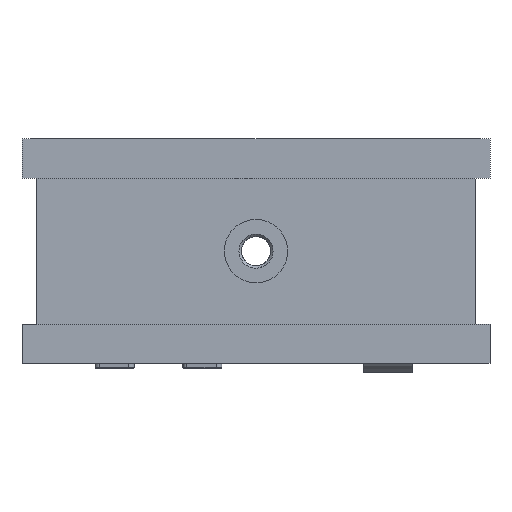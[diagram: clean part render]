
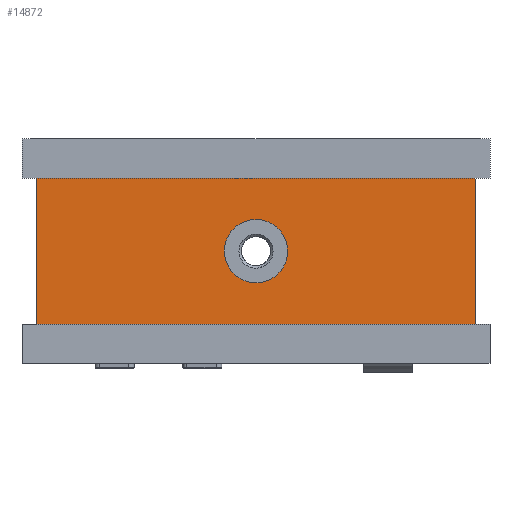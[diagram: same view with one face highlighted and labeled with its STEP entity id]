
A CAD part, front view. The second image highlights one B-rep face of the part: STEP entity #14872.
In plain terms, the highlighted planar face has unit normal (0, -1, 0).
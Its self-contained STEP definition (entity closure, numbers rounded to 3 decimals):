
#132 = VECTOR ( 'NONE', #2671, 1000. ) ;
#703 = VERTEX_POINT ( 'NONE', #1959 ) ;
#953 = ORIENTED_EDGE ( 'NONE', *, *, #23811, .T. ) ;
#1549 = VERTEX_POINT ( 'NONE', #1620 ) ;
#1620 = CARTESIAN_POINT ( 'NONE',  ( 0., 0., 0. ) ) ;
#1786 = DIRECTION ( 'NONE',  ( 0., 0., 1. ) ) ;
#1788 = CIRCLE ( 'NONE', #11142, 4. ) ;
#1959 = CARTESIAN_POINT ( 'NONE',  ( 45., 0., 19. ) ) ;
#2015 = CARTESIAN_POINT ( 'NONE',  ( 0., 0., 30. ) ) ;
#2671 = DIRECTION ( 'NONE',  ( 1., 0., 0. ) ) ;
#2751 = CARTESIAN_POINT ( 'NONE',  ( 0., 0., 30. ) ) ;
#3351 = ORIENTED_EDGE ( 'NONE', *, *, #18366, .T. ) ;
#3609 = LINE ( 'NONE', #2015, #7495 ) ;
#3627 = VERTEX_POINT ( 'NONE', #20342 ) ;
#4148 = PLANE ( 'NONE',  #17031 ) ;
#4448 = FACE_BOUND ( 'NONE', #24209, .T. ) ;
#4524 = VECTOR ( 'NONE', #22756, 1000. ) ;
#6134 = CIRCLE ( 'NONE', #15798, 4. ) ;
#6662 = VECTOR ( 'NONE', #21196, 1000. ) ;
#7123 = DIRECTION ( 'NONE',  ( 0., 0., 1. ) ) ;
#7162 = EDGE_LOOP ( 'NONE', ( #953, #19805, #18014, #17654 ) ) ;
#7495 = VECTOR ( 'NONE', #22981, 1000. ) ;
#7599 = CARTESIAN_POINT ( 'NONE',  ( 90., 0., 30. ) ) ;
#8233 = CARTESIAN_POINT ( 'NONE',  ( 45., 0., 11. ) ) ;
#9153 = CARTESIAN_POINT ( 'NONE',  ( 90., 0., 30. ) ) ;
#9210 = DIRECTION ( 'NONE',  ( 0., 1., 0. ) ) ;
#9561 = FACE_OUTER_BOUND ( 'NONE', #7162, .T. ) ;
#9690 = VERTEX_POINT ( 'NONE', #10727 ) ;
#10255 = LINE ( 'NONE', #21113, #6662 ) ;
#10727 = CARTESIAN_POINT ( 'NONE',  ( 90., 0., 0. ) ) ;
#10824 = LINE ( 'NONE', #9153, #4524 ) ;
#11142 = AXIS2_PLACEMENT_3D ( 'NONE', #24675, #9210, #7123 ) ;
#14111 = EDGE_CURVE ( 'NONE', #3627, #1549, #3609, .T. ) ;
#14872 = ADVANCED_FACE ( 'NONE', ( #4448, #9561 ), #4148, .F. ) ;
#15424 = DIRECTION ( 'NONE',  ( 0., 0., 1. ) ) ;
#15798 = AXIS2_PLACEMENT_3D ( 'NONE', #16724, #20739, #1786 ) ;
#16724 = CARTESIAN_POINT ( 'NONE',  ( 45., 0., 15. ) ) ;
#17031 = AXIS2_PLACEMENT_3D ( 'NONE', #17520, #19441, #15424 ) ;
#17210 = ORIENTED_EDGE ( 'NONE', *, *, #21961, .T. ) ;
#17520 = CARTESIAN_POINT ( 'NONE',  ( 0., 0., 30. ) ) ;
#17654 = ORIENTED_EDGE ( 'NONE', *, *, #14111, .T. ) ;
#18014 = ORIENTED_EDGE ( 'NONE', *, *, #22334, .F. ) ;
#18366 = EDGE_CURVE ( 'NONE', #703, #21557, #1788, .T. ) ;
#18855 = VERTEX_POINT ( 'NONE', #7599 ) ;
#19441 = DIRECTION ( 'NONE',  ( 0., 1., 0. ) ) ;
#19805 = ORIENTED_EDGE ( 'NONE', *, *, #24413, .F. ) ;
#20342 = CARTESIAN_POINT ( 'NONE',  ( 0., 0., 30. ) ) ;
#20739 = DIRECTION ( 'NONE',  ( 0., 1., 0. ) ) ;
#21113 = CARTESIAN_POINT ( 'NONE',  ( 0., 0., 0. ) ) ;
#21196 = DIRECTION ( 'NONE',  ( 1., 0., 0. ) ) ;
#21557 = VERTEX_POINT ( 'NONE', #8233 ) ;
#21961 = EDGE_CURVE ( 'NONE', #21557, #703, #6134, .T. ) ;
#22334 = EDGE_CURVE ( 'NONE', #3627, #18855, #23750, .T. ) ;
#22756 = DIRECTION ( 'NONE',  ( 0., 0., -1. ) ) ;
#22981 = DIRECTION ( 'NONE',  ( 0., 0., -1. ) ) ;
#23750 = LINE ( 'NONE', #2751, #132 ) ;
#23811 = EDGE_CURVE ( 'NONE', #1549, #9690, #10255, .T. ) ;
#24209 = EDGE_LOOP ( 'NONE', ( #3351, #17210 ) ) ;
#24413 = EDGE_CURVE ( 'NONE', #18855, #9690, #10824, .T. ) ;
#24675 = CARTESIAN_POINT ( 'NONE',  ( 45., 0., 15. ) ) ;
